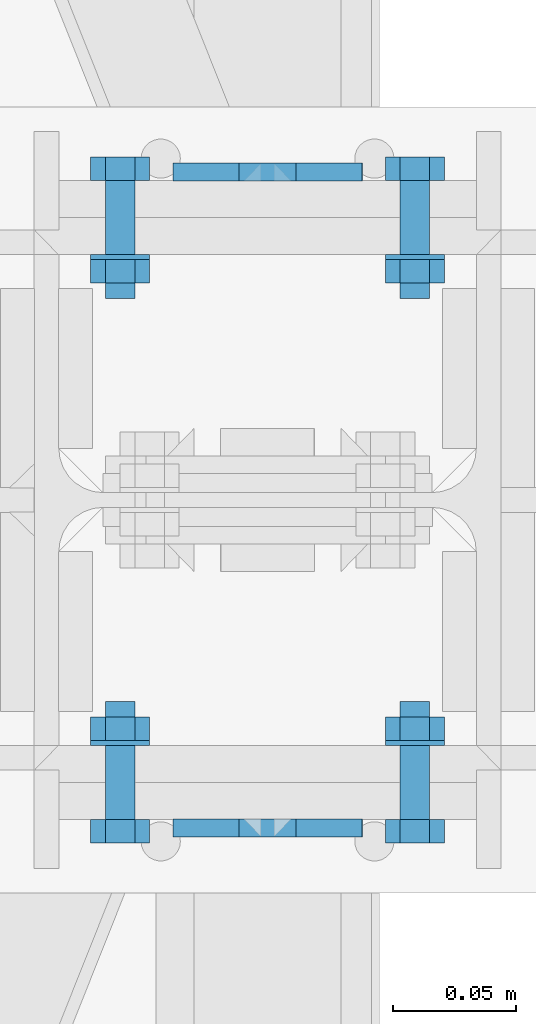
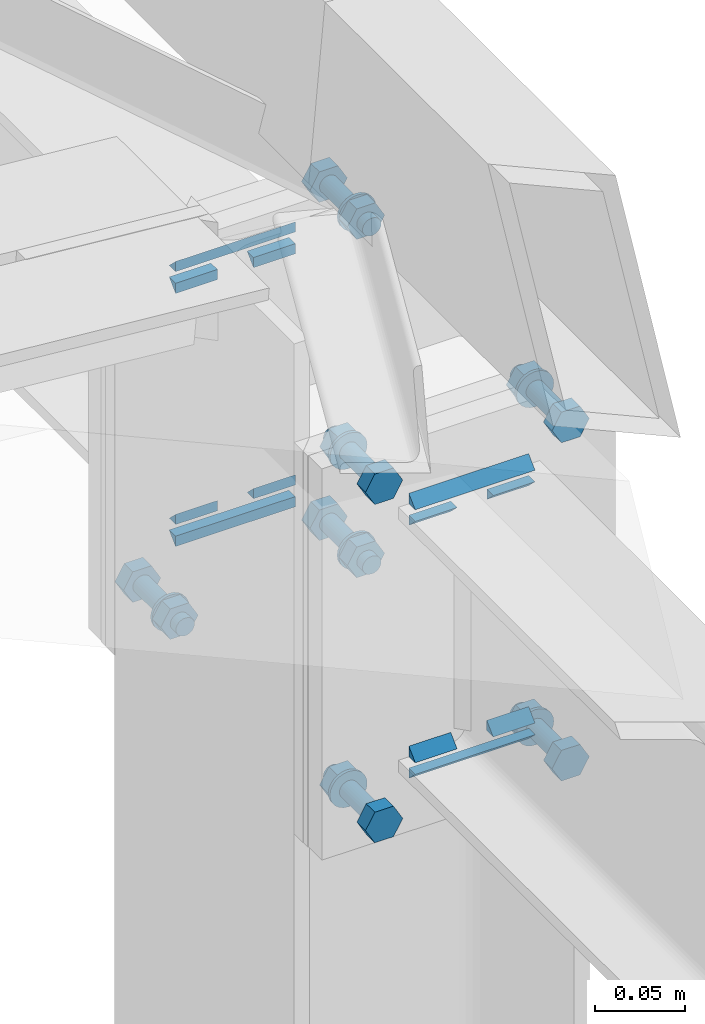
# One storey, part 115 of 251: 28 mechanical fasteners, 24 fasteners.
"""IFC4 building model written with IfcOpenShell, lengths in metres."""

from ifc_helpers import new_model, si_unit, frame, origin_with_axes, place, context, project, spatial, polyline, outline, extrude, type_object, element, save


model = new_model("IFC4")

# Units and contexts
model_context = context("Model", 3, precision=1e-05, world=origin_with_axes())
ifc_project = project(units=[si_unit("LENGTHUNIT", "METRE"), si_unit("AREAUNIT", "SQUARE_METRE"), si_unit("VOLUMEUNIT", "CUBIC_METRE"), si_unit("MASSUNIT", "GRAM", prefix="KILO"), si_unit("TIMEUNIT", "SECOND"), si_unit("PLANEANGLEUNIT", "RADIAN"), si_unit("SOLIDANGLEUNIT", "STERADIAN"), si_unit("THERMODYNAMICTEMPERATUREUNIT", "DEGREE_CELSIUS")], contexts=[model_context])

# Site, building, storey
placement_1 = place(None, origin_with_axes())
site = spatial("IfcSite", under=ifc_project, at=placement_1, Name="Italia", CompositionType="ELEMENT")
building = spatial("IfcBuilding", under=site, at=placement_1, Name="Deposito", CompositionType="ELEMENT")
storey = spatial("IfcBuildingStorey", under=building, at=placement_1, Name="Storey 0", CompositionType="ELEMENT", Elevation=0.0)

# Fasteners
fastener_type_1 = type_object("IfcFastenerType", Name="Collegamenti -064_-065 -065_-064 -065_-066 -066_-065 -066_-067 -067_-066 -067_-068 -068_-067", PredefinedType="WELD")
placement_2 = place(placement_1, origin_with_axes())
fastener_1_placement = place(placement_2, origin_with_axes())
element("IfcFastener", 1, at=fastener_1_placement, inside=storey, type_object=fastener_type_1, Name="Collegamenti -064_-065 -065_-064 -065_-066 -066_-065 -066_-067 -067_-066 -067_-068 -068_-067", context=model_context, shape_type="SweptSolid", body=[
    extrude(outline(polyline([(0.0, 0.0), (0.00717354, -0.00695801), (0.0, -0.00695801), (0.0, 0.0)])), frame((20.0385, 4.87005, 5.89691), z_axis=(-1.0, 0.0, 0.0), x_axis=(0.0, -1.0, 0.0)), (0.0, 0.0, 1.0), 0.0770988),
])
fastener_type_2 = type_object("IfcFastenerType", Name="Collegamenti -064_-065 -065_-064 -065_-066 -066_-065 -066_-067 -067_-066 -067_-068 -068_-067", PredefinedType="WELD")
fastener_2_placement = place(placement_2, origin_with_axes())
element("IfcFastener", 2, at=fastener_2_placement, inside=storey, type_object=fastener_type_2, Name="Collegamenti -064_-065 -065_-064 -065_-066 -066_-065 -066_-067 -067_-066 -067_-068 -068_-067", context=model_context, shape_type="SweptSolid", body=[
    extrude(outline(polyline([(0.0, 0.0), (-0.00717354, 0.00695801), (0.0, 0.00695801), (0.0, 0.0)])), frame((20.0116, 4.87005, 5.87509), z_axis=(1.0, 0.0, 0.0), x_axis=(0.0, 1.0, 0.0)), (0.0, 0.0, 1.0), 0.0269508),
])
fastener_type_3 = type_object("IfcFastenerType", Name="Collegamenti -064_-065 -065_-064 -065_-066 -066_-065 -066_-067 -067_-066 -067_-068 -068_-067", PredefinedType="WELD")
fastener_3_placement = place(placement_2, origin_with_axes())
element("IfcFastener", 3, at=fastener_3_placement, inside=storey, type_object=fastener_type_3, Name="Collegamenti -064_-065 -065_-064 -065_-066 -066_-065 -066_-067 -067_-066 -067_-068 -068_-067", context=model_context, shape_type="SweptSolid", body=[
    extrude(outline(polyline([(0.0, 0.0), (0.00717354, -0.00695801), (0.0, -0.00695801), (0.0, 0.0)])), frame((20.0385, 4.87005, 5.72491), z_axis=(-1.0, 0.0, 0.0), x_axis=(0.0, -1.0, 0.0)), (0.0, 0.0, 1.0), 0.0269508),
])
fastener_type_4 = type_object("IfcFastenerType", Name="Collegamenti -064_-065 -065_-064 -065_-066 -066_-065 -066_-067 -067_-066 -067_-068 -068_-067", PredefinedType="WELD")
fastener_4_placement = place(placement_2, origin_with_axes())
element("IfcFastener", 4, at=fastener_4_placement, inside=storey, type_object=fastener_type_4, Name="Collegamenti -064_-065 -065_-064 -065_-066 -066_-065 -066_-067 -067_-066 -067_-068 -068_-067", context=model_context, shape_type="SweptSolid", body=[
    extrude(outline(polyline([(0.0, 0.0), (-0.00717354, 0.00695801), (0.0, 0.00695801), (0.0, 0.0)])), frame((19.9615, 4.87005, 5.70309), z_axis=(1.0, 0.0, 0.0), x_axis=(0.0, 1.0, 0.0)), (0.0, 0.0, 1.0), 0.0770988),
])
fastener_type_5 = type_object("IfcFastenerType", Name="Collegamenti -064_-065 -065_-064 -065_-066 -066_-065 -066_-067 -067_-066 -067_-068 -068_-067", PredefinedType="WELD")
fastener_5_placement = place(placement_2, origin_with_axes())
element("IfcFastener", 5, at=fastener_5_placement, inside=storey, type_object=fastener_type_5, Name="Collegamenti -064_-065 -065_-064 -065_-066 -066_-065 -066_-067 -067_-066 -067_-068 -068_-067", context=model_context, shape_type="SweptSolid", body=[
    extrude(outline(polyline([(0.0, 0.0), (0.00717354, -0.00695801), (0.0, -0.00695801), (0.0, 0.0)])), frame((19.9884, 4.87005, 5.72491), z_axis=(-1.0, 0.0, 0.0), x_axis=(0.0, -1.0, 0.0)), (0.0, 0.0, 1.0), 0.0269508),
])
fastener_type_6 = type_object("IfcFastenerType", Name="Collegamenti -064_-065 -065_-064 -065_-066 -066_-065 -066_-067 -067_-066 -067_-068 -068_-067", PredefinedType="WELD")
fastener_6_placement = place(placement_2, origin_with_axes())
element("IfcFastener", 6, at=fastener_6_placement, inside=storey, type_object=fastener_type_6, Name="Collegamenti -064_-065 -065_-064 -065_-066 -066_-065 -066_-067 -067_-066 -067_-068 -068_-067", context=model_context, shape_type="SweptSolid", body=[
    extrude(outline(polyline([(0.0, 0.0), (-0.00717354, 0.00695801), (0.0, 0.00695801), (0.0, 0.0)])), frame((19.9615, 4.87005, 5.87509), z_axis=(1.0, 0.0, 0.0), x_axis=(0.0, 1.0, 0.0)), (0.0, 0.0, 1.0), 0.0269508),
])
fastener_type_7 = type_object("IfcFastenerType", Name="Collegamenti -064_-065 -065_-064 -065_-066 -066_-065 -066_-067 -067_-066 -067_-068 -068_-067", PredefinedType="WELD")
fastener_7_placement = place(placement_2, origin_with_axes())
element("IfcFastener", 7, at=fastener_7_placement, inside=storey, type_object=fastener_type_7, Name="Collegamenti -064_-065 -065_-064 -065_-066 -066_-065 -066_-067 -067_-066 -067_-068 -068_-067", context=model_context, shape_type="SweptSolid", body=[
    extrude(outline(polyline([(0.0, 0.0), (0.00717354, -0.00695801), (0.0, -0.00695801), (0.0, 0.0)])), frame((20.0385, 4.87005, 5.89691), z_axis=(-1.0, 0.0, 0.0), x_axis=(0.0, -1.0, 0.0)), (0.0, 0.0, 1.0), 0.0770988),
])
fastener_type_8 = type_object("IfcFastenerType", Name="Collegamenti -064_-065 -065_-064 -065_-066 -066_-065 -066_-067 -067_-066 -067_-068 -068_-067", PredefinedType="WELD")
fastener_8_placement = place(placement_2, origin_with_axes())
element("IfcFastener", 8, at=fastener_8_placement, inside=storey, type_object=fastener_type_8, Name="Collegamenti -064_-065 -065_-064 -065_-066 -066_-065 -066_-067 -067_-066 -067_-068 -068_-067", context=model_context, shape_type="SweptSolid", body=[
    extrude(outline(polyline([(0.0, 0.0), (-0.00717354, 0.00695801), (0.0, 0.00695801), (0.0, 0.0)])), frame((20.0116, 4.87005, 5.87509), z_axis=(1.0, 0.0, 0.0), x_axis=(0.0, 1.0, 0.0)), (0.0, 0.0, 1.0), 0.0269508),
])
fastener_type_9 = type_object("IfcFastenerType", Name="Collegamenti -064_-065 -065_-064 -065_-066 -066_-065 -066_-067 -067_-066 -067_-068 -068_-067", PredefinedType="WELD")
fastener_9_placement = place(placement_2, origin_with_axes())
element("IfcFastener", 9, at=fastener_9_placement, inside=storey, type_object=fastener_type_9, Name="Collegamenti -064_-065 -065_-064 -065_-066 -066_-065 -066_-067 -067_-066 -067_-068 -068_-067", context=model_context, shape_type="SweptSolid", body=[
    extrude(outline(polyline([(0.0, 0.0), (0.00717354, -0.00695801), (0.0, -0.00695801), (0.0, 0.0)])), frame((20.0385, 4.87005, 5.72491), z_axis=(-1.0, 0.0, 0.0), x_axis=(0.0, -1.0, 0.0)), (0.0, 0.0, 1.0), 0.0269508),
])
fastener_type_10 = type_object("IfcFastenerType", Name="Collegamenti -064_-065 -065_-064 -065_-066 -066_-065 -066_-067 -067_-066 -067_-068 -068_-067", PredefinedType="WELD")
fastener_10_placement = place(placement_2, origin_with_axes())
element("IfcFastener", 10, at=fastener_10_placement, inside=storey, type_object=fastener_type_10, Name="Collegamenti -064_-065 -065_-064 -065_-066 -066_-065 -066_-067 -067_-066 -067_-068 -068_-067", context=model_context, shape_type="SweptSolid", body=[
    extrude(outline(polyline([(0.0, 0.0), (-0.00717354, 0.00695801), (0.0, 0.00695801), (0.0, 0.0)])), frame((19.9615, 4.87005, 5.70309), z_axis=(1.0, 0.0, 0.0), x_axis=(0.0, 1.0, 0.0)), (0.0, 0.0, 1.0), 0.0770988),
])
fastener_type_11 = type_object("IfcFastenerType", Name="Collegamenti -064_-065 -065_-064 -065_-066 -066_-065 -066_-067 -067_-066 -067_-068 -068_-067", PredefinedType="WELD")
fastener_11_placement = place(placement_2, origin_with_axes())
element("IfcFastener", 11, at=fastener_11_placement, inside=storey, type_object=fastener_type_11, Name="Collegamenti -064_-065 -065_-064 -065_-066 -066_-065 -066_-067 -067_-066 -067_-068 -068_-067", context=model_context, shape_type="SweptSolid", body=[
    extrude(outline(polyline([(0.0, 0.0), (0.00717354, -0.00695801), (0.0, -0.00695801), (0.0, 0.0)])), frame((19.9884, 4.87005, 5.72491), z_axis=(-1.0, 0.0, 0.0), x_axis=(0.0, -1.0, 0.0)), (0.0, 0.0, 1.0), 0.0269508),
])
fastener_type_12 = type_object("IfcFastenerType", Name="Collegamenti -064_-065 -065_-064 -065_-066 -066_-065 -066_-067 -067_-066 -067_-068 -068_-067", PredefinedType="WELD")
fastener_12_placement = place(placement_2, origin_with_axes())
element("IfcFastener", 12, at=fastener_12_placement, inside=storey, type_object=fastener_type_12, Name="Collegamenti -064_-065 -065_-064 -065_-066 -066_-065 -066_-067 -067_-066 -067_-068 -068_-067", context=model_context, shape_type="SweptSolid", body=[
    extrude(outline(polyline([(0.0, 0.0), (-0.00717354, 0.00695801), (0.0, 0.00695801), (0.0, 0.0)])), frame((19.9615, 4.87005, 5.87509), z_axis=(1.0, 0.0, 0.0), x_axis=(0.0, 1.0, 0.0)), (0.0, 0.0, 1.0), 0.0269508),
])

# Mechanical fasteners
mechanical_fastener_type_1 = type_object("IfcMechanicalFastenerType", Name="Collegamenti -064_-065 -065_-064 -065_-066 -066_-065 -066_-067 -067_-066 -067_-068 -068_-067", PredefinedType="BOLT")
mechanical_fastener_1_placement = place(placement_2, origin_with_axes())
element("IfcMechanicalFastener", 13, at=mechanical_fastener_1_placement, inside=storey, type_object=mechanical_fastener_type_1, Name="Collegamenti -064_-065 -065_-064 -065_-066 -066_-065 -066_-067 -067_-066 -067_-068 -068_-067", NominalDiameter=0.0119991, context=model_context, shape_type="SweptSolid", body=[
    extrude(outline(polyline([(0.0, 0.0), (-0.0119991, 0.0), (-0.0179996, 0.0103927), (-0.0119991, 0.0207849), (0.0, 0.0207849), (0.00600052, 0.0103927), (0.0, 0.0)])), frame((19.946, 4.87, 5.67461), z_axis=(0.0, -1.0, 0.0), x_axis=(1.0, 0.0, 0.0)), (0.0, 0.0, 1.0), 0.00959969),
])
mechanical_fastener_type_2 = type_object("IfcMechanicalFastenerType", Name="Collegamenti -064_-065 -065_-064 -065_-066 -066_-065 -066_-067 -067_-066 -067_-068 -068_-067", PredefinedType="BOLT")
mechanical_fastener_2_placement = place(placement_2, origin_with_axes())
element("IfcMechanicalFastener", 14, at=mechanical_fastener_2_placement, inside=storey, type_object=mechanical_fastener_type_2, Name="Collegamenti -064_-065 -065_-064 -065_-066 -066_-065 -066_-067 -067_-066 -067_-068 -068_-067", NominalDiameter=0.012, context=model_context, shape_type="SweptSolid", body=[
    extrude(outline(polyline([(0.0, 0.0), (-0.000204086, -0.00155306), (-0.000804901, -0.00299978), (-0.00175858, -0.00424242), (-0.00300026, -0.00519609), (-0.00444794, -0.00579548), (-0.00600052, -0.00600004), (-0.0075531, -0.00579548), (-0.00900078, -0.00519609), (-0.0102425, -0.00424242), (-0.0111961, -0.00299978), (-0.011797, -0.00155306), (-0.012001, 0.0), (-0.011797, 0.00155306), (-0.0111961, 0.00299978), (-0.0102425, 0.00424242), (-0.00900078, 0.00519609), (-0.0075531, 0.00579548), (-0.00600052, 0.00600004), (-0.00444794, 0.00579548), (-0.00300026, 0.00519609), (-0.00175858, 0.00424242), (-0.000804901, 0.00299978), (-0.000204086, 0.00155306), (0.0, 0.0)])), frame((19.946, 4.918, 5.685), z_axis=(0.0, -1.0, 0.0), x_axis=(1.0, 0.0, 0.0)), (0.0, 0.0, 1.0), 0.0480003),
])
mechanical_fastener_type_3 = type_object("IfcMechanicalFastenerType", Name="Collegamenti -064_-065 -065_-064 -065_-066 -066_-065 -066_-067 -067_-066 -067_-068 -068_-067", PredefinedType="BOLT")
mechanical_fastener_3_placement = place(placement_2, origin_with_axes())
element("IfcMechanicalFastener", 15, at=mechanical_fastener_3_placement, inside=storey, type_object=mechanical_fastener_type_3, Name="Collegamenti -064_-065 -065_-064 -065_-066 -066_-065 -066_-067 -067_-066 -067_-068 -068_-067", NominalDiameter=0.0119991, context=model_context, shape_type="SweptSolid", body=[
    extrude(outline(polyline([(0.0, 0.0), (-0.0119991, 0.0), (-0.0179996, 0.0103927), (-0.0119991, 0.0207849), (0.0, 0.0207849), (0.00600052, 0.0103927), (0.0, 0.0)])), frame((19.946, 4.9116, 5.67461), z_axis=(0.0, -1.0, 0.0), x_axis=(1.0, 0.0, 0.0)), (0.0, 0.0, 1.0), 0.00960016),
])
mechanical_fastener_type_4 = type_object("IfcMechanicalFastenerType", Name="Collegamenti -064_-065 -065_-064 -065_-066 -066_-065 -066_-067 -067_-066 -067_-068 -068_-067", PredefinedType="BOLT")
mechanical_fastener_4_placement = place(placement_2, origin_with_axes())
element("IfcMechanicalFastener", 16, at=mechanical_fastener_4_placement, inside=storey, type_object=mechanical_fastener_type_4, Name="Collegamenti -064_-065 -065_-064 -065_-066 -066_-065 -066_-067 -067_-066 -067_-068 -068_-067", NominalDiameter=0.024, context=model_context, shape_type="SweptSolid", body=[
    extrude(outline(polyline([(0.0, 0.0), (-0.000408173, -0.00310564), (-0.00160599, -0.00600004), (-0.00351334, -0.00848532), (-0.00599861, -0.0103922), (-0.00889397, -0.011591), (-0.0119991, -0.0120001), (-0.0151043, -0.011591), (-0.0179996, -0.0103922), (-0.0204849, -0.00848532), (-0.0223923, -0.00600004), (-0.0235901, -0.00310564), (-0.0239983, 0.0), (-0.0235901, 0.00310564), (-0.0223923, 0.00600004), (-0.0204849, 0.00848532), (-0.0179996, 0.0103922), (-0.0151043, 0.011591), (-0.0119991, 0.0120001), (-0.00889397, 0.011591), (-0.00599861, 0.0103922), (-0.00351334, 0.00848532), (-0.00160599, 0.00600004), (-0.000408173, 0.00310564), (0.0, 0.0)])), frame((19.952, 4.902, 5.685), z_axis=(0.0, -1.0, 0.0), x_axis=(1.0, 0.0, 0.0)), (0.0, 0.0, 1.0), 0.00199986),
])
mechanical_fastener_type_5 = type_object("IfcMechanicalFastenerType", Name="Collegamenti -064_-065 -065_-064 -065_-066 -066_-065 -066_-067 -067_-066 -067_-068 -068_-067", PredefinedType="BOLT")
mechanical_fastener_5_placement = place(placement_2, origin_with_axes())
element("IfcMechanicalFastener", 17, at=mechanical_fastener_5_placement, inside=storey, type_object=mechanical_fastener_type_5, Name="Collegamenti -064_-065 -065_-064 -065_-066 -066_-065 -066_-067 -067_-066 -067_-068 -068_-067", NominalDiameter=0.0119991, context=model_context, shape_type="SweptSolid", body=[
    extrude(outline(polyline([(0.0, 0.0), (-0.0119991, 0.0), (-0.0179996, 0.0103927), (-0.0119991, 0.0207849), (0.0, 0.0207849), (0.00600052, 0.0103927), (0.0, 0.0)])), frame((20.066, 4.87, 5.67461), z_axis=(0.0, -1.0, 0.0), x_axis=(1.0, 0.0, 0.0)), (0.0, 0.0, 1.0), 0.00959969),
])
mechanical_fastener_type_6 = type_object("IfcMechanicalFastenerType", Name="Collegamenti -064_-065 -065_-064 -065_-066 -066_-065 -066_-067 -067_-066 -067_-068 -068_-067", PredefinedType="BOLT")
mechanical_fastener_6_placement = place(placement_2, origin_with_axes())
element("IfcMechanicalFastener", 18, at=mechanical_fastener_6_placement, inside=storey, type_object=mechanical_fastener_type_6, Name="Collegamenti -064_-065 -065_-064 -065_-066 -066_-065 -066_-067 -067_-066 -067_-068 -068_-067", NominalDiameter=0.012, context=model_context, shape_type="SweptSolid", body=[
    extrude(outline(polyline([(0.0, 0.0), (-0.000204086, -0.00155306), (-0.000804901, -0.00299978), (-0.00175858, -0.00424242), (-0.00300026, -0.00519609), (-0.00444794, -0.00579548), (-0.00600052, -0.00600004), (-0.0075531, -0.00579548), (-0.00900078, -0.00519609), (-0.0102425, -0.00424242), (-0.0111961, -0.00299978), (-0.011797, -0.00155306), (-0.012001, 0.0), (-0.011797, 0.00155306), (-0.0111961, 0.00299978), (-0.0102425, 0.00424242), (-0.00900078, 0.00519609), (-0.0075531, 0.00579548), (-0.00600052, 0.00600004), (-0.00444794, 0.00579548), (-0.00300026, 0.00519609), (-0.00175858, 0.00424242), (-0.000804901, 0.00299978), (-0.000204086, 0.00155306), (0.0, 0.0)])), frame((20.066, 4.918, 5.685), z_axis=(0.0, -1.0, 0.0), x_axis=(1.0, 0.0, 0.0)), (0.0, 0.0, 1.0), 0.0480003),
])
mechanical_fastener_type_7 = type_object("IfcMechanicalFastenerType", Name="Collegamenti -064_-065 -065_-064 -065_-066 -066_-065 -066_-067 -067_-066 -067_-068 -068_-067", PredefinedType="BOLT")
mechanical_fastener_7_placement = place(placement_2, origin_with_axes())
element("IfcMechanicalFastener", 19, at=mechanical_fastener_7_placement, inside=storey, type_object=mechanical_fastener_type_7, Name="Collegamenti -064_-065 -065_-064 -065_-066 -066_-065 -066_-067 -067_-066 -067_-068 -068_-067", NominalDiameter=0.0119991, context=model_context, shape_type="SweptSolid", body=[
    extrude(outline(polyline([(0.0, 0.0), (-0.0119991, 0.0), (-0.0179996, 0.0103927), (-0.0119991, 0.0207849), (0.0, 0.0207849), (0.00600052, 0.0103927), (0.0, 0.0)])), frame((20.066, 4.9116, 5.67461), z_axis=(0.0, -1.0, 0.0), x_axis=(1.0, 0.0, 0.0)), (0.0, 0.0, 1.0), 0.00960016),
])
mechanical_fastener_type_8 = type_object("IfcMechanicalFastenerType", Name="Collegamenti -064_-065 -065_-064 -065_-066 -066_-065 -066_-067 -067_-066 -067_-068 -068_-067", PredefinedType="BOLT")
mechanical_fastener_8_placement = place(placement_2, origin_with_axes())
element("IfcMechanicalFastener", 20, at=mechanical_fastener_8_placement, inside=storey, type_object=mechanical_fastener_type_8, Name="Collegamenti -064_-065 -065_-064 -065_-066 -066_-065 -066_-067 -067_-066 -067_-068 -068_-067", NominalDiameter=0.024, context=model_context, shape_type="SweptSolid", body=[
    extrude(outline(polyline([(0.0, 0.0), (-0.000408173, -0.00310564), (-0.00160599, -0.00600004), (-0.00351334, -0.00848532), (-0.00599861, -0.0103922), (-0.00889397, -0.011591), (-0.0119991, -0.0120001), (-0.0151043, -0.011591), (-0.0179996, -0.0103922), (-0.0204849, -0.00848532), (-0.0223923, -0.00600004), (-0.0235901, -0.00310564), (-0.0239983, 0.0), (-0.0235901, 0.00310564), (-0.0223923, 0.00600004), (-0.0204849, 0.00848532), (-0.0179996, 0.0103922), (-0.0151043, 0.011591), (-0.0119991, 0.0120001), (-0.00889397, 0.011591), (-0.00599861, 0.0103922), (-0.00351334, 0.00848532), (-0.00160599, 0.00600004), (-0.000408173, 0.00310564), (0.0, 0.0)])), frame((20.072, 4.902, 5.685), z_axis=(0.0, -1.0, 0.0), x_axis=(1.0, 0.0, 0.0)), (0.0, 0.0, 1.0), 0.00199986),
])
mechanical_fastener_type_9 = type_object("IfcMechanicalFastenerType", Name="Collegamenti -064_-065 -065_-064 -065_-066 -066_-065 -066_-067 -067_-066 -067_-068 -068_-067", PredefinedType="BOLT")
mechanical_fastener_9_placement = place(placement_2, origin_with_axes())
element("IfcMechanicalFastener", 21, at=mechanical_fastener_9_placement, inside=storey, type_object=mechanical_fastener_type_9, Name="Collegamenti -064_-065 -065_-064 -065_-066 -066_-065 -066_-067 -067_-066 -067_-068 -068_-067", NominalDiameter=0.0119991, context=model_context, shape_type="SweptSolid", body=[
    extrude(outline(polyline([(0.0, 0.0), (-0.0119991, 0.0), (-0.0179996, 0.0103922), (-0.0119991, 0.0207849), (0.0, 0.0207849), (0.00600052, 0.0103922), (0.0, 0.0)])), frame((19.946, 4.87, 5.90461), z_axis=(0.0, -1.0, 0.0), x_axis=(1.0, 0.0, 0.0)), (0.0, 0.0, 1.0), 0.00959969),
])
mechanical_fastener_type_10 = type_object("IfcMechanicalFastenerType", Name="Collegamenti -064_-065 -065_-064 -065_-066 -066_-065 -066_-067 -067_-066 -067_-068 -068_-067", PredefinedType="BOLT")
mechanical_fastener_10_placement = place(placement_2, origin_with_axes())
element("IfcMechanicalFastener", 22, at=mechanical_fastener_10_placement, inside=storey, type_object=mechanical_fastener_type_10, Name="Collegamenti -064_-065 -065_-064 -065_-066 -066_-065 -066_-067 -067_-066 -067_-068 -068_-067", NominalDiameter=0.012, context=model_context, shape_type="SweptSolid", body=[
    extrude(outline(polyline([(0.0, 0.0), (-0.000204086, -0.00155306), (-0.000804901, -0.00299978), (-0.00175858, -0.00424242), (-0.00300026, -0.00519609), (-0.00444794, -0.00579548), (-0.00600052, -0.00600004), (-0.0075531, -0.00579548), (-0.00900078, -0.00519609), (-0.0102425, -0.00424242), (-0.0111961, -0.00299978), (-0.011797, -0.00155306), (-0.012001, 0.0), (-0.011797, 0.00155306), (-0.0111961, 0.00299978), (-0.0102425, 0.00424242), (-0.00900078, 0.00519609), (-0.0075531, 0.00579548), (-0.00600052, 0.00600004), (-0.00444794, 0.00579548), (-0.00300026, 0.00519609), (-0.00175858, 0.00424242), (-0.000804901, 0.00299978), (-0.000204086, 0.00155306), (0.0, 0.0)])), frame((19.946, 4.918, 5.915), z_axis=(0.0, -1.0, 0.0), x_axis=(1.0, 0.0, 0.0)), (0.0, 0.0, 1.0), 0.0480003),
])
mechanical_fastener_type_11 = type_object("IfcMechanicalFastenerType", Name="Collegamenti -064_-065 -065_-064 -065_-066 -066_-065 -066_-067 -067_-066 -067_-068 -068_-067", PredefinedType="BOLT")
mechanical_fastener_11_placement = place(placement_2, origin_with_axes())
element("IfcMechanicalFastener", 23, at=mechanical_fastener_11_placement, inside=storey, type_object=mechanical_fastener_type_11, Name="Collegamenti -064_-065 -065_-064 -065_-066 -066_-065 -066_-067 -067_-066 -067_-068 -068_-067", NominalDiameter=0.0119991, context=model_context, shape_type="SweptSolid", body=[
    extrude(outline(polyline([(0.0, 0.0), (-0.0119991, 0.0), (-0.0179996, 0.0103922), (-0.0119991, 0.0207849), (0.0, 0.0207849), (0.00600052, 0.0103922), (0.0, 0.0)])), frame((19.946, 4.9116, 5.90461), z_axis=(0.0, -1.0, 0.0), x_axis=(1.0, 0.0, 0.0)), (0.0, 0.0, 1.0), 0.00960016),
])
mechanical_fastener_type_12 = type_object("IfcMechanicalFastenerType", Name="Collegamenti -064_-065 -065_-064 -065_-066 -066_-065 -066_-067 -067_-066 -067_-068 -068_-067", PredefinedType="BOLT")
mechanical_fastener_12_placement = place(placement_2, origin_with_axes())
element("IfcMechanicalFastener", 24, at=mechanical_fastener_12_placement, inside=storey, type_object=mechanical_fastener_type_12, Name="Collegamenti -064_-065 -065_-064 -065_-066 -066_-065 -066_-067 -067_-066 -067_-068 -068_-067", NominalDiameter=0.024, context=model_context, shape_type="SweptSolid", body=[
    extrude(outline(polyline([(0.0, 0.0), (-0.000408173, -0.00310564), (-0.00160599, -0.00600004), (-0.00351334, -0.00848532), (-0.00599861, -0.0103922), (-0.00889397, -0.011591), (-0.0119991, -0.0120001), (-0.0151043, -0.011591), (-0.0179996, -0.0103922), (-0.0204849, -0.00848532), (-0.0223923, -0.00600004), (-0.0235901, -0.00310564), (-0.0239983, 0.0), (-0.0235901, 0.00310564), (-0.0223923, 0.00600004), (-0.0204849, 0.00848532), (-0.0179996, 0.0103922), (-0.0151043, 0.011591), (-0.0119991, 0.0120001), (-0.00889397, 0.011591), (-0.00599861, 0.0103922), (-0.00351334, 0.00848532), (-0.00160599, 0.00600004), (-0.000408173, 0.00310564), (0.0, 0.0)])), frame((19.952, 4.902, 5.915), z_axis=(0.0, -1.0, 0.0), x_axis=(1.0, 0.0, 0.0)), (0.0, 0.0, 1.0), 0.00199986),
])
mechanical_fastener_type_13 = type_object("IfcMechanicalFastenerType", Name="Collegamenti -064_-065 -065_-064 -065_-066 -066_-065 -066_-067 -067_-066 -067_-068 -068_-067", PredefinedType="BOLT")
mechanical_fastener_13_placement = place(placement_2, origin_with_axes())
element("IfcMechanicalFastener", 25, at=mechanical_fastener_13_placement, inside=storey, type_object=mechanical_fastener_type_13, Name="Collegamenti -064_-065 -065_-064 -065_-066 -066_-065 -066_-067 -067_-066 -067_-068 -068_-067", NominalDiameter=0.0119991, context=model_context, shape_type="SweptSolid", body=[
    extrude(outline(polyline([(0.0, 0.0), (-0.0119991, 0.0), (-0.0179996, 0.0103922), (-0.0119991, 0.0207849), (0.0, 0.0207849), (0.00600052, 0.0103922), (0.0, 0.0)])), frame((20.066, 4.87, 5.90461), z_axis=(0.0, -1.0, 0.0), x_axis=(1.0, 0.0, 0.0)), (0.0, 0.0, 1.0), 0.00959969),
])
mechanical_fastener_type_14 = type_object("IfcMechanicalFastenerType", Name="Collegamenti -064_-065 -065_-064 -065_-066 -066_-065 -066_-067 -067_-066 -067_-068 -068_-067", PredefinedType="BOLT")
mechanical_fastener_14_placement = place(placement_2, origin_with_axes())
element("IfcMechanicalFastener", 26, at=mechanical_fastener_14_placement, inside=storey, type_object=mechanical_fastener_type_14, Name="Collegamenti -064_-065 -065_-064 -065_-066 -066_-065 -066_-067 -067_-066 -067_-068 -068_-067", NominalDiameter=0.012, context=model_context, shape_type="SweptSolid", body=[
    extrude(outline(polyline([(0.0, 0.0), (-0.000204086, -0.00155306), (-0.000804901, -0.00299978), (-0.00175858, -0.00424242), (-0.00300026, -0.00519609), (-0.00444794, -0.00579548), (-0.00600052, -0.00600004), (-0.0075531, -0.00579548), (-0.00900078, -0.00519609), (-0.0102425, -0.00424242), (-0.0111961, -0.00299978), (-0.011797, -0.00155306), (-0.012001, 0.0), (-0.011797, 0.00155306), (-0.0111961, 0.00299978), (-0.0102425, 0.00424242), (-0.00900078, 0.00519609), (-0.0075531, 0.00579548), (-0.00600052, 0.00600004), (-0.00444794, 0.00579548), (-0.00300026, 0.00519609), (-0.00175858, 0.00424242), (-0.000804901, 0.00299978), (-0.000204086, 0.00155306), (0.0, 0.0)])), frame((20.066, 4.918, 5.915), z_axis=(0.0, -1.0, 0.0), x_axis=(1.0, 0.0, 0.0)), (0.0, 0.0, 1.0), 0.0480003),
])
mechanical_fastener_type_15 = type_object("IfcMechanicalFastenerType", Name="Collegamenti -064_-065 -065_-064 -065_-066 -066_-065 -066_-067 -067_-066 -067_-068 -068_-067", PredefinedType="BOLT")
mechanical_fastener_15_placement = place(placement_2, origin_with_axes())
element("IfcMechanicalFastener", 27, at=mechanical_fastener_15_placement, inside=storey, type_object=mechanical_fastener_type_15, Name="Collegamenti -064_-065 -065_-064 -065_-066 -066_-065 -066_-067 -067_-066 -067_-068 -068_-067", NominalDiameter=0.0119991, context=model_context, shape_type="SweptSolid", body=[
    extrude(outline(polyline([(0.0, 0.0), (-0.0119991, 0.0), (-0.0179996, 0.0103922), (-0.0119991, 0.0207849), (0.0, 0.0207849), (0.00600052, 0.0103922), (0.0, 0.0)])), frame((20.066, 4.9116, 5.90461), z_axis=(0.0, -1.0, 0.0), x_axis=(1.0, 0.0, 0.0)), (0.0, 0.0, 1.0), 0.00960016),
])
mechanical_fastener_type_16 = type_object("IfcMechanicalFastenerType", Name="Collegamenti -064_-065 -065_-064 -065_-066 -066_-065 -066_-067 -067_-066 -067_-068 -068_-067", PredefinedType="BOLT")
mechanical_fastener_16_placement = place(placement_2, origin_with_axes())
element("IfcMechanicalFastener", 28, at=mechanical_fastener_16_placement, inside=storey, type_object=mechanical_fastener_type_16, Name="Collegamenti -064_-065 -065_-064 -065_-066 -066_-065 -066_-067 -067_-066 -067_-068 -068_-067", NominalDiameter=0.024, context=model_context, shape_type="SweptSolid", body=[
    extrude(outline(polyline([(0.0, 0.0), (-0.000408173, -0.00310564), (-0.00160599, -0.00600004), (-0.00351334, -0.00848532), (-0.00599861, -0.0103922), (-0.00889397, -0.011591), (-0.0119991, -0.0120001), (-0.0151043, -0.011591), (-0.0179996, -0.0103922), (-0.0204849, -0.00848532), (-0.0223923, -0.00600004), (-0.0235901, -0.00310564), (-0.0239983, 0.0), (-0.0235901, 0.00310564), (-0.0223923, 0.00600004), (-0.0204849, 0.00848532), (-0.0179996, 0.0103922), (-0.0151043, 0.011591), (-0.0119991, 0.0120001), (-0.00889397, 0.011591), (-0.00599861, 0.0103922), (-0.00351334, 0.00848532), (-0.00160599, 0.00600004), (-0.000408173, 0.00310564), (0.0, 0.0)])), frame((20.072, 4.902, 5.915), z_axis=(0.0, -1.0, 0.0), x_axis=(1.0, 0.0, 0.0)), (0.0, 0.0, 1.0), 0.00199986),
])

# Fasteners
fastener_type_13 = type_object("IfcFastenerType", Name="Collegamenti -064_-065 -065_-064 -065_-066 -066_-065 -066_-067 -067_-066 -067_-068 -068_-067", PredefinedType="WELD")
fastener_13_placement = place(placement_2, origin_with_axes())
element("IfcFastener", 29, at=fastener_13_placement, inside=storey, type_object=fastener_type_13, Name="Collegamenti -064_-065 -065_-064 -065_-066 -066_-065 -066_-067 -067_-066 -067_-068 -068_-067", context=model_context, shape_type="SweptSolid", body=[
    extrude(outline(polyline([(0.0, 0.0), (0.00717354, -0.00695801), (0.0, -0.00695801), (0.0, 0.0)])), frame((19.9615, 5.12995, 5.89691), z_axis=(1.0, 0.0, 0.0), x_axis=(0.0, 1.0, 0.0)), (0.0, 0.0, 1.0), 0.0770988),
])
fastener_type_14 = type_object("IfcFastenerType", Name="Collegamenti -064_-065 -065_-064 -065_-066 -066_-065 -066_-067 -067_-066 -067_-068 -068_-067", PredefinedType="WELD")
fastener_14_placement = place(placement_2, origin_with_axes())
element("IfcFastener", 30, at=fastener_14_placement, inside=storey, type_object=fastener_type_14, Name="Collegamenti -064_-065 -065_-064 -065_-066 -066_-065 -066_-067 -067_-066 -067_-068 -068_-067", context=model_context, shape_type="SweptSolid", body=[
    extrude(outline(polyline([(0.0, 0.0), (-0.00717354, 0.00695801), (0.0, 0.00695801), (0.0, 0.0)])), frame((19.9884, 5.12995, 5.87509), z_axis=(-1.0, 0.0, 0.0), x_axis=(0.0, -1.0, 0.0)), (0.0, 0.0, 1.0), 0.0269508),
])
fastener_type_15 = type_object("IfcFastenerType", Name="Collegamenti -064_-065 -065_-064 -065_-066 -066_-065 -066_-067 -067_-066 -067_-068 -068_-067", PredefinedType="WELD")
fastener_15_placement = place(placement_2, origin_with_axes())
element("IfcFastener", 31, at=fastener_15_placement, inside=storey, type_object=fastener_type_15, Name="Collegamenti -064_-065 -065_-064 -065_-066 -066_-065 -066_-067 -067_-066 -067_-068 -068_-067", context=model_context, shape_type="SweptSolid", body=[
    extrude(outline(polyline([(0.0, 0.0), (0.00717354, -0.00695801), (0.0, -0.00695801), (0.0, 0.0)])), frame((19.9615, 5.12995, 5.72491), z_axis=(1.0, 0.0, 0.0), x_axis=(0.0, 1.0, 0.0)), (0.0, 0.0, 1.0), 0.0269508),
])
fastener_type_16 = type_object("IfcFastenerType", Name="Collegamenti -064_-065 -065_-064 -065_-066 -066_-065 -066_-067 -067_-066 -067_-068 -068_-067", PredefinedType="WELD")
fastener_16_placement = place(placement_2, origin_with_axes())
element("IfcFastener", 32, at=fastener_16_placement, inside=storey, type_object=fastener_type_16, Name="Collegamenti -064_-065 -065_-064 -065_-066 -066_-065 -066_-067 -067_-066 -067_-068 -068_-067", context=model_context, shape_type="SweptSolid", body=[
    extrude(outline(polyline([(0.0, 0.0), (-0.00717354, 0.00695801), (0.0, 0.00695801), (0.0, 0.0)])), frame((20.0385, 5.12995, 5.70309), z_axis=(-1.0, 0.0, 0.0), x_axis=(0.0, -1.0, 0.0)), (0.0, 0.0, 1.0), 0.0770988),
])
fastener_type_17 = type_object("IfcFastenerType", Name="Collegamenti -064_-065 -065_-064 -065_-066 -066_-065 -066_-067 -067_-066 -067_-068 -068_-067", PredefinedType="WELD")
fastener_17_placement = place(placement_2, origin_with_axes())
element("IfcFastener", 33, at=fastener_17_placement, inside=storey, type_object=fastener_type_17, Name="Collegamenti -064_-065 -065_-064 -065_-066 -066_-065 -066_-067 -067_-066 -067_-068 -068_-067", context=model_context, shape_type="SweptSolid", body=[
    extrude(outline(polyline([(0.0, 0.0), (0.00717354, -0.00695801), (0.0, -0.00695801), (0.0, 0.0)])), frame((20.0116, 5.12995, 5.72491), z_axis=(1.0, 0.0, 0.0), x_axis=(0.0, 1.0, 0.0)), (0.0, 0.0, 1.0), 0.0269508),
])
fastener_type_18 = type_object("IfcFastenerType", Name="Collegamenti -064_-065 -065_-064 -065_-066 -066_-065 -066_-067 -067_-066 -067_-068 -068_-067", PredefinedType="WELD")
fastener_18_placement = place(placement_2, origin_with_axes())
element("IfcFastener", 34, at=fastener_18_placement, inside=storey, type_object=fastener_type_18, Name="Collegamenti -064_-065 -065_-064 -065_-066 -066_-065 -066_-067 -067_-066 -067_-068 -068_-067", context=model_context, shape_type="SweptSolid", body=[
    extrude(outline(polyline([(0.0, 0.0), (-0.00717354, 0.00695801), (0.0, 0.00695801), (0.0, 0.0)])), frame((20.0385, 5.12995, 5.87509), z_axis=(-1.0, 0.0, 0.0), x_axis=(0.0, -1.0, 0.0)), (0.0, 0.0, 1.0), 0.0269508),
])
fastener_type_19 = type_object("IfcFastenerType", Name="Collegamenti -064_-065 -065_-064 -065_-066 -066_-065 -066_-067 -067_-066 -067_-068 -068_-067", PredefinedType="WELD")
fastener_19_placement = place(placement_2, origin_with_axes())
element("IfcFastener", 35, at=fastener_19_placement, inside=storey, type_object=fastener_type_19, Name="Collegamenti -064_-065 -065_-064 -065_-066 -066_-065 -066_-067 -067_-066 -067_-068 -068_-067", context=model_context, shape_type="SweptSolid", body=[
    extrude(outline(polyline([(0.0, 0.0), (0.00717354, -0.00695801), (0.0, -0.00695801), (0.0, 0.0)])), frame((19.9615, 5.12995, 5.89691), z_axis=(1.0, 0.0, 0.0), x_axis=(0.0, 1.0, 0.0)), (0.0, 0.0, 1.0), 0.0770988),
])
fastener_type_20 = type_object("IfcFastenerType", Name="Collegamenti -064_-065 -065_-064 -065_-066 -066_-065 -066_-067 -067_-066 -067_-068 -068_-067", PredefinedType="WELD")
fastener_20_placement = place(placement_2, origin_with_axes())
element("IfcFastener", 36, at=fastener_20_placement, inside=storey, type_object=fastener_type_20, Name="Collegamenti -064_-065 -065_-064 -065_-066 -066_-065 -066_-067 -067_-066 -067_-068 -068_-067", context=model_context, shape_type="SweptSolid", body=[
    extrude(outline(polyline([(0.0, 0.0), (-0.00717354, 0.00695801), (0.0, 0.00695801), (0.0, 0.0)])), frame((19.9884, 5.12995, 5.87509), z_axis=(-1.0, 0.0, 0.0), x_axis=(0.0, -1.0, 0.0)), (0.0, 0.0, 1.0), 0.0269508),
])
fastener_type_21 = type_object("IfcFastenerType", Name="Collegamenti -064_-065 -065_-064 -065_-066 -066_-065 -066_-067 -067_-066 -067_-068 -068_-067", PredefinedType="WELD")
fastener_21_placement = place(placement_2, origin_with_axes())
element("IfcFastener", 37, at=fastener_21_placement, inside=storey, type_object=fastener_type_21, Name="Collegamenti -064_-065 -065_-064 -065_-066 -066_-065 -066_-067 -067_-066 -067_-068 -068_-067", context=model_context, shape_type="SweptSolid", body=[
    extrude(outline(polyline([(0.0, 0.0), (0.00717354, -0.00695801), (0.0, -0.00695801), (0.0, 0.0)])), frame((19.9615, 5.12995, 5.72491), z_axis=(1.0, 0.0, 0.0), x_axis=(0.0, 1.0, 0.0)), (0.0, 0.0, 1.0), 0.0269508),
])
fastener_type_22 = type_object("IfcFastenerType", Name="Collegamenti -064_-065 -065_-064 -065_-066 -066_-065 -066_-067 -067_-066 -067_-068 -068_-067", PredefinedType="WELD")
fastener_22_placement = place(placement_2, origin_with_axes())
element("IfcFastener", 38, at=fastener_22_placement, inside=storey, type_object=fastener_type_22, Name="Collegamenti -064_-065 -065_-064 -065_-066 -066_-065 -066_-067 -067_-066 -067_-068 -068_-067", context=model_context, shape_type="SweptSolid", body=[
    extrude(outline(polyline([(0.0, 0.0), (-0.00717354, 0.00695801), (0.0, 0.00695801), (0.0, 0.0)])), frame((20.0385, 5.12995, 5.70309), z_axis=(-1.0, 0.0, 0.0), x_axis=(0.0, -1.0, 0.0)), (0.0, 0.0, 1.0), 0.0770988),
])
fastener_type_23 = type_object("IfcFastenerType", Name="Collegamenti -064_-065 -065_-064 -065_-066 -066_-065 -066_-067 -067_-066 -067_-068 -068_-067", PredefinedType="WELD")
fastener_23_placement = place(placement_2, origin_with_axes())
element("IfcFastener", 39, at=fastener_23_placement, inside=storey, type_object=fastener_type_23, Name="Collegamenti -064_-065 -065_-064 -065_-066 -066_-065 -066_-067 -067_-066 -067_-068 -068_-067", context=model_context, shape_type="SweptSolid", body=[
    extrude(outline(polyline([(0.0, 0.0), (0.00717354, -0.00695801), (0.0, -0.00695801), (0.0, 0.0)])), frame((20.0116, 5.12995, 5.72491), z_axis=(1.0, 0.0, 0.0), x_axis=(0.0, 1.0, 0.0)), (0.0, 0.0, 1.0), 0.0269508),
])
fastener_type_24 = type_object("IfcFastenerType", Name="Collegamenti -064_-065 -065_-064 -065_-066 -066_-065 -066_-067 -067_-066 -067_-068 -068_-067", PredefinedType="WELD")
fastener_24_placement = place(placement_2, origin_with_axes())
element("IfcFastener", 40, at=fastener_24_placement, inside=storey, type_object=fastener_type_24, Name="Collegamenti -064_-065 -065_-064 -065_-066 -066_-065 -066_-067 -067_-066 -067_-068 -068_-067", context=model_context, shape_type="SweptSolid", body=[
    extrude(outline(polyline([(0.0, 0.0), (-0.00717354, 0.00695801), (0.0, 0.00695801), (0.0, 0.0)])), frame((20.0385, 5.12995, 5.87509), z_axis=(-1.0, 0.0, 0.0), x_axis=(0.0, -1.0, 0.0)), (0.0, 0.0, 1.0), 0.0269508),
])

# Mechanical fasteners
mechanical_fastener_type_17 = type_object("IfcMechanicalFastenerType", Name="Collegamenti -064_-065 -065_-064 -065_-066 -066_-065 -066_-067 -067_-066 -067_-068 -068_-067", PredefinedType="BOLT")
mechanical_fastener_17_placement = place(placement_2, origin_with_axes())
element("IfcMechanicalFastener", 41, at=mechanical_fastener_17_placement, inside=storey, type_object=mechanical_fastener_type_17, Name="Collegamenti -064_-065 -065_-064 -065_-066 -066_-065 -066_-067 -067_-066 -067_-068 -068_-067", NominalDiameter=0.0119991, context=model_context, shape_type="SweptSolid", body=[
    extrude(outline(polyline([(0.0, 0.0), (-0.0119991, 0.0), (-0.0179996, 0.0103927), (-0.0119991, 0.0207849), (0.0, 0.0207849), (0.00600052, 0.0103927), (0.0, 0.0)])), frame((20.054, 5.13, 5.67461), z_axis=(0.0, 1.0, 0.0), x_axis=(-1.0, 0.0, 0.0)), (0.0, 0.0, 1.0), 0.00959969),
])
mechanical_fastener_type_18 = type_object("IfcMechanicalFastenerType", Name="Collegamenti -064_-065 -065_-064 -065_-066 -066_-065 -066_-067 -067_-066 -067_-068 -068_-067", PredefinedType="BOLT")
mechanical_fastener_18_placement = place(placement_2, origin_with_axes())
element("IfcMechanicalFastener", 42, at=mechanical_fastener_18_placement, inside=storey, type_object=mechanical_fastener_type_18, Name="Collegamenti -064_-065 -065_-064 -065_-066 -066_-065 -066_-067 -067_-066 -067_-068 -068_-067", NominalDiameter=0.012, context=model_context, shape_type="SweptSolid", body=[
    extrude(outline(polyline([(0.0, 0.0), (-0.000204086, -0.00155306), (-0.000804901, -0.00299978), (-0.00175858, -0.00424242), (-0.00300026, -0.00519609), (-0.00444794, -0.00579548), (-0.00600052, -0.00600004), (-0.0075531, -0.00579548), (-0.00900078, -0.00519609), (-0.0102425, -0.00424242), (-0.0111961, -0.00299978), (-0.011797, -0.00155306), (-0.012001, 0.0), (-0.011797, 0.00155306), (-0.0111961, 0.00299978), (-0.0102425, 0.00424242), (-0.00900078, 0.00519609), (-0.0075531, 0.00579548), (-0.00600052, 0.00600004), (-0.00444794, 0.00579548), (-0.00300026, 0.00519609), (-0.00175858, 0.00424242), (-0.000804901, 0.00299978), (-0.000204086, 0.00155306), (0.0, 0.0)])), frame((20.054, 5.082, 5.685), z_axis=(0.0, 1.0, 0.0), x_axis=(-1.0, 0.0, 0.0)), (0.0, 0.0, 1.0), 0.0480003),
])
mechanical_fastener_type_19 = type_object("IfcMechanicalFastenerType", Name="Collegamenti -064_-065 -065_-064 -065_-066 -066_-065 -066_-067 -067_-066 -067_-068 -068_-067", PredefinedType="BOLT")
mechanical_fastener_19_placement = place(placement_2, origin_with_axes())
element("IfcMechanicalFastener", 43, at=mechanical_fastener_19_placement, inside=storey, type_object=mechanical_fastener_type_19, Name="Collegamenti -064_-065 -065_-064 -065_-066 -066_-065 -066_-067 -067_-066 -067_-068 -068_-067", NominalDiameter=0.0119991, context=model_context, shape_type="SweptSolid", body=[
    extrude(outline(polyline([(0.0, 0.0), (-0.0119991, 0.0), (-0.0179996, 0.0103927), (-0.0119991, 0.0207849), (0.0, 0.0207849), (0.00600052, 0.0103927), (0.0, 0.0)])), frame((20.054, 5.0884, 5.67461), z_axis=(0.0, 1.0, 0.0), x_axis=(-1.0, 0.0, 0.0)), (0.0, 0.0, 1.0), 0.00960016),
])
mechanical_fastener_type_20 = type_object("IfcMechanicalFastenerType", Name="Collegamenti -064_-065 -065_-064 -065_-066 -066_-065 -066_-067 -067_-066 -067_-068 -068_-067", PredefinedType="BOLT")
mechanical_fastener_20_placement = place(placement_2, origin_with_axes())
element("IfcMechanicalFastener", 44, at=mechanical_fastener_20_placement, inside=storey, type_object=mechanical_fastener_type_20, Name="Collegamenti -064_-065 -065_-064 -065_-066 -066_-065 -066_-067 -067_-066 -067_-068 -068_-067", NominalDiameter=0.024, context=model_context, shape_type="SweptSolid", body=[
    extrude(outline(polyline([(0.0, 0.0), (-0.000408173, -0.00310564), (-0.00160599, -0.00600004), (-0.00351334, -0.00848532), (-0.00599861, -0.0103922), (-0.00889397, -0.011591), (-0.0119991, -0.0120001), (-0.0151043, -0.011591), (-0.0179996, -0.0103922), (-0.0204849, -0.00848532), (-0.0223923, -0.00600004), (-0.0235901, -0.00310564), (-0.0239983, 0.0), (-0.0235901, 0.00310564), (-0.0223923, 0.00600004), (-0.0204849, 0.00848532), (-0.0179996, 0.0103922), (-0.0151043, 0.011591), (-0.0119991, 0.0120001), (-0.00889397, 0.011591), (-0.00599861, 0.0103922), (-0.00351334, 0.00848532), (-0.00160599, 0.00600004), (-0.000408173, 0.00310564), (0.0, 0.0)])), frame((20.048, 5.098, 5.685), z_axis=(0.0, 1.0, 0.0), x_axis=(-1.0, 0.0, 0.0)), (0.0, 0.0, 1.0), 0.00199986),
])
mechanical_fastener_type_21 = type_object("IfcMechanicalFastenerType", Name="Collegamenti -064_-065 -065_-064 -065_-066 -066_-065 -066_-067 -067_-066 -067_-068 -068_-067", PredefinedType="BOLT")
mechanical_fastener_21_placement = place(placement_2, origin_with_axes())
element("IfcMechanicalFastener", 45, at=mechanical_fastener_21_placement, inside=storey, type_object=mechanical_fastener_type_21, Name="Collegamenti -064_-065 -065_-064 -065_-066 -066_-065 -066_-067 -067_-066 -067_-068 -068_-067", NominalDiameter=0.0119991, context=model_context, shape_type="SweptSolid", body=[
    extrude(outline(polyline([(0.0, 0.0), (-0.0119991, 0.0), (-0.0179996, 0.0103927), (-0.0119991, 0.0207849), (0.0, 0.0207849), (0.00600052, 0.0103927), (0.0, 0.0)])), frame((19.934, 5.13, 5.67461), z_axis=(0.0, 1.0, 0.0), x_axis=(-1.0, 0.0, 0.0)), (0.0, 0.0, 1.0), 0.00959969),
])
mechanical_fastener_type_22 = type_object("IfcMechanicalFastenerType", Name="Collegamenti -064_-065 -065_-064 -065_-066 -066_-065 -066_-067 -067_-066 -067_-068 -068_-067", PredefinedType="BOLT")
mechanical_fastener_22_placement = place(placement_2, origin_with_axes())
element("IfcMechanicalFastener", 46, at=mechanical_fastener_22_placement, inside=storey, type_object=mechanical_fastener_type_22, Name="Collegamenti -064_-065 -065_-064 -065_-066 -066_-065 -066_-067 -067_-066 -067_-068 -068_-067", NominalDiameter=0.012, context=model_context, shape_type="SweptSolid", body=[
    extrude(outline(polyline([(0.0, 0.0), (-0.000204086, -0.00155306), (-0.000804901, -0.00299978), (-0.00175858, -0.00424242), (-0.00300026, -0.00519609), (-0.00444794, -0.00579548), (-0.00600052, -0.00600004), (-0.0075531, -0.00579548), (-0.00900078, -0.00519609), (-0.0102425, -0.00424242), (-0.0111961, -0.00299978), (-0.011797, -0.00155306), (-0.012001, 0.0), (-0.011797, 0.00155306), (-0.0111961, 0.00299978), (-0.0102425, 0.00424242), (-0.00900078, 0.00519609), (-0.0075531, 0.00579548), (-0.00600052, 0.00600004), (-0.00444794, 0.00579548), (-0.00300026, 0.00519609), (-0.00175858, 0.00424242), (-0.000804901, 0.00299978), (-0.000204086, 0.00155306), (0.0, 0.0)])), frame((19.934, 5.082, 5.685), z_axis=(0.0, 1.0, 0.0), x_axis=(-1.0, 0.0, 0.0)), (0.0, 0.0, 1.0), 0.0480003),
])
mechanical_fastener_type_23 = type_object("IfcMechanicalFastenerType", Name="Collegamenti -064_-065 -065_-064 -065_-066 -066_-065 -066_-067 -067_-066 -067_-068 -068_-067", PredefinedType="BOLT")
mechanical_fastener_23_placement = place(placement_2, origin_with_axes())
element("IfcMechanicalFastener", 47, at=mechanical_fastener_23_placement, inside=storey, type_object=mechanical_fastener_type_23, Name="Collegamenti -064_-065 -065_-064 -065_-066 -066_-065 -066_-067 -067_-066 -067_-068 -068_-067", NominalDiameter=0.0119991, context=model_context, shape_type="SweptSolid", body=[
    extrude(outline(polyline([(0.0, 0.0), (-0.0119991, 0.0), (-0.0179996, 0.0103927), (-0.0119991, 0.0207849), (0.0, 0.0207849), (0.00600052, 0.0103927), (0.0, 0.0)])), frame((19.934, 5.0884, 5.67461), z_axis=(0.0, 1.0, 0.0), x_axis=(-1.0, 0.0, 0.0)), (0.0, 0.0, 1.0), 0.00960016),
])
mechanical_fastener_type_24 = type_object("IfcMechanicalFastenerType", Name="Collegamenti -064_-065 -065_-064 -065_-066 -066_-065 -066_-067 -067_-066 -067_-068 -068_-067", PredefinedType="BOLT")
mechanical_fastener_24_placement = place(placement_2, origin_with_axes())
element("IfcMechanicalFastener", 48, at=mechanical_fastener_24_placement, inside=storey, type_object=mechanical_fastener_type_24, Name="Collegamenti -064_-065 -065_-064 -065_-066 -066_-065 -066_-067 -067_-066 -067_-068 -068_-067", NominalDiameter=0.024, context=model_context, shape_type="SweptSolid", body=[
    extrude(outline(polyline([(0.0, 0.0), (-0.000408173, -0.00310564), (-0.00160599, -0.00600004), (-0.00351334, -0.00848532), (-0.00599861, -0.0103922), (-0.00889397, -0.011591), (-0.0119991, -0.0120001), (-0.0151043, -0.011591), (-0.0179996, -0.0103922), (-0.0204849, -0.00848532), (-0.0223923, -0.00600004), (-0.0235901, -0.00310564), (-0.0239983, 0.0), (-0.0235901, 0.00310564), (-0.0223923, 0.00600004), (-0.0204849, 0.00848532), (-0.0179996, 0.0103922), (-0.0151043, 0.011591), (-0.0119991, 0.0120001), (-0.00889397, 0.011591), (-0.00599861, 0.0103922), (-0.00351334, 0.00848532), (-0.00160599, 0.00600004), (-0.000408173, 0.00310564), (0.0, 0.0)])), frame((19.928, 5.098, 5.685), z_axis=(0.0, 1.0, 0.0), x_axis=(-1.0, 0.0, 0.0)), (0.0, 0.0, 1.0), 0.00199986),
])
mechanical_fastener_type_25 = type_object("IfcMechanicalFastenerType", Name="Collegamenti -064_-065 -065_-064 -065_-066 -066_-065 -066_-067 -067_-066 -067_-068 -068_-067", PredefinedType="BOLT")
mechanical_fastener_25_placement = place(placement_2, origin_with_axes())
element("IfcMechanicalFastener", 49, at=mechanical_fastener_25_placement, inside=storey, type_object=mechanical_fastener_type_25, Name="Collegamenti -064_-065 -065_-064 -065_-066 -066_-065 -066_-067 -067_-066 -067_-068 -068_-067", NominalDiameter=0.0119991, context=model_context, shape_type="SweptSolid", body=[
    extrude(outline(polyline([(0.0, 0.0), (-0.0119991, 0.0), (-0.0179996, 0.0103922), (-0.0119991, 0.0207849), (0.0, 0.0207849), (0.00600052, 0.0103922), (0.0, 0.0)])), frame((20.054, 5.13, 5.90461), z_axis=(0.0, 1.0, 0.0), x_axis=(-1.0, 0.0, 0.0)), (0.0, 0.0, 1.0), 0.00959969),
])
mechanical_fastener_type_26 = type_object("IfcMechanicalFastenerType", Name="Collegamenti -064_-065 -065_-064 -065_-066 -066_-065 -066_-067 -067_-066 -067_-068 -068_-067", PredefinedType="BOLT")
mechanical_fastener_26_placement = place(placement_2, origin_with_axes())
element("IfcMechanicalFastener", 50, at=mechanical_fastener_26_placement, inside=storey, type_object=mechanical_fastener_type_26, Name="Collegamenti -064_-065 -065_-064 -065_-066 -066_-065 -066_-067 -067_-066 -067_-068 -068_-067", NominalDiameter=0.012, context=model_context, shape_type="SweptSolid", body=[
    extrude(outline(polyline([(0.0, 0.0), (-0.000204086, -0.00155306), (-0.000804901, -0.00299978), (-0.00175858, -0.00424242), (-0.00300026, -0.00519609), (-0.00444794, -0.00579548), (-0.00600052, -0.00600004), (-0.0075531, -0.00579548), (-0.00900078, -0.00519609), (-0.0102425, -0.00424242), (-0.0111961, -0.00299978), (-0.011797, -0.00155306), (-0.012001, 0.0), (-0.011797, 0.00155306), (-0.0111961, 0.00299978), (-0.0102425, 0.00424242), (-0.00900078, 0.00519609), (-0.0075531, 0.00579548), (-0.00600052, 0.00600004), (-0.00444794, 0.00579548), (-0.00300026, 0.00519609), (-0.00175858, 0.00424242), (-0.000804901, 0.00299978), (-0.000204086, 0.00155306), (0.0, 0.0)])), frame((20.054, 5.082, 5.915), z_axis=(0.0, 1.0, 0.0), x_axis=(-1.0, 0.0, 0.0)), (0.0, 0.0, 1.0), 0.0480003),
])
mechanical_fastener_type_27 = type_object("IfcMechanicalFastenerType", Name="Collegamenti -064_-065 -065_-064 -065_-066 -066_-065 -066_-067 -067_-066 -067_-068 -068_-067", PredefinedType="BOLT")
mechanical_fastener_27_placement = place(placement_2, origin_with_axes())
element("IfcMechanicalFastener", 51, at=mechanical_fastener_27_placement, inside=storey, type_object=mechanical_fastener_type_27, Name="Collegamenti -064_-065 -065_-064 -065_-066 -066_-065 -066_-067 -067_-066 -067_-068 -068_-067", NominalDiameter=0.0119991, context=model_context, shape_type="SweptSolid", body=[
    extrude(outline(polyline([(0.0, 0.0), (-0.0119991, 0.0), (-0.0179996, 0.0103922), (-0.0119991, 0.0207849), (0.0, 0.0207849), (0.00600052, 0.0103922), (0.0, 0.0)])), frame((20.054, 5.0884, 5.90461), z_axis=(0.0, 1.0, 0.0), x_axis=(-1.0, 0.0, 0.0)), (0.0, 0.0, 1.0), 0.00960016),
])
mechanical_fastener_type_28 = type_object("IfcMechanicalFastenerType", Name="Collegamenti -064_-065 -065_-064 -065_-066 -066_-065 -066_-067 -067_-066 -067_-068 -068_-067", PredefinedType="BOLT")
mechanical_fastener_28_placement = place(placement_2, origin_with_axes())
element("IfcMechanicalFastener", 52, at=mechanical_fastener_28_placement, inside=storey, type_object=mechanical_fastener_type_28, Name="Collegamenti -064_-065 -065_-064 -065_-066 -066_-065 -066_-067 -067_-066 -067_-068 -068_-067", NominalDiameter=0.024, context=model_context, shape_type="SweptSolid", body=[
    extrude(outline(polyline([(0.0, 0.0), (-0.000408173, -0.00310564), (-0.00160599, -0.00600004), (-0.00351334, -0.00848532), (-0.00599861, -0.0103922), (-0.00889397, -0.011591), (-0.0119991, -0.0120001), (-0.0151043, -0.011591), (-0.0179996, -0.0103922), (-0.0204849, -0.00848532), (-0.0223923, -0.00600004), (-0.0235901, -0.00310564), (-0.0239983, 0.0), (-0.0235901, 0.00310564), (-0.0223923, 0.00600004), (-0.0204849, 0.00848532), (-0.0179996, 0.0103922), (-0.0151043, 0.011591), (-0.0119991, 0.0120001), (-0.00889397, 0.011591), (-0.00599861, 0.0103922), (-0.00351334, 0.00848532), (-0.00160599, 0.00600004), (-0.000408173, 0.00310564), (0.0, 0.0)])), frame((20.048, 5.098, 5.915), z_axis=(0.0, 1.0, 0.0), x_axis=(-1.0, 0.0, 0.0)), (0.0, 0.0, 1.0), 0.00199986),
])

save(model, "model.ifc")
